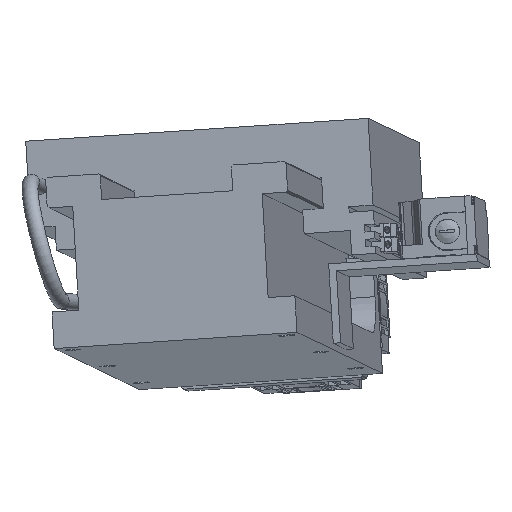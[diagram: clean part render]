
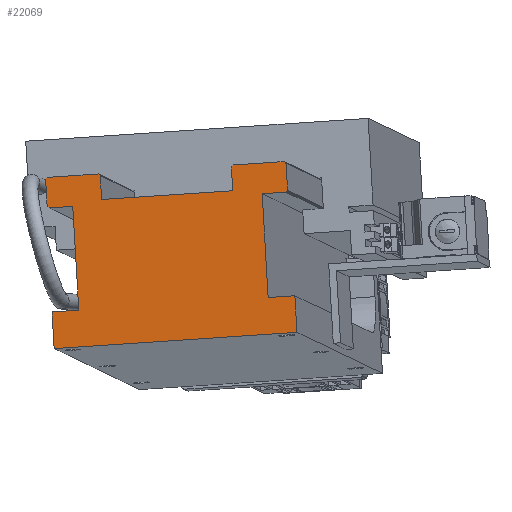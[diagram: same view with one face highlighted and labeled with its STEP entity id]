
A CAD part, front view. The second image highlights one B-rep face of the part: STEP entity #22069.
In plain terms, the highlighted planar face has unit normal (-0.13, -0.99, 0.062).
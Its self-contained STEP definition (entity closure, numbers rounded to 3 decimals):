
#2373=CARTESIAN_POINT('',(111.406,-271.691,222.788));
#2374=VERTEX_POINT('',#2373);
#2381=CARTESIAN_POINT('',(113.131,-273.801,192.912));
#2382=VERTEX_POINT('',#2381);
#2383=CARTESIAN_POINT('',(111.406,-271.691,222.788));
#2384=DIRECTION('',(0.058,-0.07,-0.996));
#2385=VECTOR('',#2384,30.);
#2386=LINE('',#2383,#2385);
#2387=EDGE_CURVE('',#2374,#2382,#2386,.T.);
#20970=CARTESIAN_POINT('',(-69.673,-243.294,295.678));
#20971=VERTEX_POINT('',#20970);
#20978=CARTESIAN_POINT('',(-88.975,-240.838,294.39));
#20979=VERTEX_POINT('',#20978);
#20980=CARTESIAN_POINT('',(-69.673,-243.294,295.678));
#20981=DIRECTION('',(-0.99,0.126,-0.066));
#20982=VECTOR('',#20981,19.5);
#20983=LINE('',#20980,#20982);
#20984=EDGE_CURVE('',#20971,#20979,#20983,.T.);
#21002=CARTESIAN_POINT('',(104.043,-265.4,307.271));
#21003=VERTEX_POINT('',#21002);
#21010=CARTESIAN_POINT('',(84.741,-262.943,305.983));
#21011=VERTEX_POINT('',#21010);
#21012=CARTESIAN_POINT('',(104.043,-265.4,307.271));
#21013=DIRECTION('',(-0.99,0.126,-0.066));
#21014=VECTOR('',#21013,19.5);
#21015=LINE('',#21012,#21014);
#21016=EDGE_CURVE('',#21003,#21011,#21015,.T.);
#21044=CARTESIAN_POINT('',(-47.269,-244.665,320.666));
#21045=VERTEX_POINT('',#21044);
#21052=CARTESIAN_POINT('',(-46.147,-246.036,301.247));
#21053=VERTEX_POINT('',#21052);
#21054=CARTESIAN_POINT('',(-47.269,-244.665,320.666));
#21055=DIRECTION('',(0.058,-0.07,-0.996));
#21056=VECTOR('',#21055,19.5);
#21057=LINE('',#21054,#21056);
#21058=EDGE_CURVE('',#21045,#21053,#21057,.T.);
#21075=CARTESIAN_POINT('',(105.441,-265.483,308.864));
#21076=VERTEX_POINT('',#21075);
#21077=CARTESIAN_POINT('',(105.441,-265.483,308.864));
#21078=DIRECTION('',(-0.659,0.039,-0.751));
#21079=VECTOR('',#21078,2.121);
#21080=LINE('',#21077,#21079);
#21081=EDGE_CURVE('',#21076,#21003,#21080,.T.);
#21102=CARTESIAN_POINT('',(104.176,-263.936,330.773));
#21103=VERTEX_POINT('',#21102);
#21110=CARTESIAN_POINT('',(104.176,-263.936,330.773));
#21111=DIRECTION('',(0.058,-0.07,-0.996));
#21112=VECTOR('',#21111,22.);
#21113=LINE('',#21110,#21112);
#21114=EDGE_CURVE('',#21103,#21076,#21113,.T.);
#21164=CARTESIAN_POINT('',(102.605,-263.642,332.168));
#21165=VERTEX_POINT('',#21164);
#21166=CARTESIAN_POINT('',(102.605,-263.642,332.168));
#21167=DIRECTION('',(0.741,-0.139,-0.657));
#21168=VECTOR('',#21167,2.121);
#21169=LINE('',#21166,#21168);
#21170=EDGE_CURVE('',#21165,#21103,#21169,.T.);
#21190=CARTESIAN_POINT('',(61.032,-258.351,329.393));
#21191=VERTEX_POINT('',#21190);
#21198=CARTESIAN_POINT('',(61.032,-258.351,329.393));
#21199=DIRECTION('',(0.99,-0.126,0.066));
#21200=VECTOR('',#21199,42.0);
#21201=LINE('',#21198,#21200);
#21202=EDGE_CURVE('',#21191,#21165,#21201,.T.);
#21213=CARTESIAN_POINT('',(59.633,-258.268,327.8));
#21214=VERTEX_POINT('',#21213);
#21215=CARTESIAN_POINT('',(59.633,-258.268,327.8));
#21216=DIRECTION('',(0.659,-0.039,0.751));
#21217=VECTOR('',#21216,2.121);
#21218=LINE('',#21215,#21217);
#21219=EDGE_CURVE('',#21214,#21191,#21218,.T.);
#21240=CARTESIAN_POINT('',(60.755,-259.639,308.381));
#21241=VERTEX_POINT('',#21240);
#21248=CARTESIAN_POINT('',(60.755,-259.639,308.381));
#21249=DIRECTION('',(-0.058,0.07,0.996));
#21250=VECTOR('',#21249,19.5);
#21251=LINE('',#21248,#21250);
#21252=EDGE_CURVE('',#21241,#21214,#21251,.T.);
#21262=CARTESIAN_POINT('',(-48.84,-244.37,322.061));
#21263=VERTEX_POINT('',#21262);
#21264=CARTESIAN_POINT('',(-48.84,-244.37,322.061));
#21265=DIRECTION('',(0.741,-0.139,-0.657));
#21266=VECTOR('',#21265,2.121);
#21267=LINE('',#21264,#21266);
#21268=EDGE_CURVE('',#21263,#21045,#21267,.T.);
#21291=CARTESIAN_POINT('',(-90.413,-239.08,319.286));
#21292=VERTEX_POINT('',#21291);
#21299=CARTESIAN_POINT('',(-90.413,-239.08,319.286));
#21300=DIRECTION('',(0.99,-0.126,0.066));
#21301=VECTOR('',#21300,42.);
#21302=LINE('',#21299,#21301);
#21303=EDGE_CURVE('',#21292,#21263,#21302,.T.);
#21314=CARTESIAN_POINT('',(-91.811,-238.996,317.693));
#21315=VERTEX_POINT('',#21314);
#21316=CARTESIAN_POINT('',(-91.811,-238.996,317.693));
#21317=DIRECTION('',(0.659,-0.039,0.751));
#21318=VECTOR('',#21317,2.121);
#21319=LINE('',#21316,#21318);
#21320=EDGE_CURVE('',#21315,#21292,#21319,.T.);
#21341=CARTESIAN_POINT('',(-90.546,-240.543,295.784));
#21342=VERTEX_POINT('',#21341);
#21349=CARTESIAN_POINT('',(-90.546,-240.543,295.784));
#21350=DIRECTION('',(-0.058,0.07,0.996));
#21351=VECTOR('',#21350,22.);
#21352=LINE('',#21349,#21351);
#21353=EDGE_CURVE('',#21342,#21315,#21352,.T.);
#21363=CARTESIAN_POINT('',(-88.975,-240.838,294.39));
#21364=DIRECTION('',(-0.741,0.139,0.657));
#21365=VECTOR('',#21364,2.121);
#21366=LINE('',#21363,#21365);
#21367=EDGE_CURVE('',#20979,#21342,#21366,.T.);
#21718=CARTESIAN_POINT('',(-64.785,-249.271,211.029));
#21719=VERTEX_POINT('',#21718);
#21726=CARTESIAN_POINT('',(-64.785,-249.271,211.029));
#21727=DIRECTION('',(-0.058,0.07,0.996));
#21728=VECTOR('',#21727,85.);
#21729=LINE('',#21726,#21728);
#21730=EDGE_CURVE('',#21719,#20971,#21729,.T.);
#21763=CARTESIAN_POINT('',(-86.561,-246.5,209.576));
#21764=VERTEX_POINT('',#21763);
#21771=CARTESIAN_POINT('',(-64.785,-249.271,211.029));
#21772=DIRECTION('',(-0.99,0.126,-0.066));
#21773=VECTOR('',#21772,22.);
#21774=LINE('',#21771,#21773);
#21775=EDGE_CURVE('',#21719,#21764,#21774,.T.);
#21876=CARTESIAN_POINT('',(89.629,-268.92,221.334));
#21877=VERTEX_POINT('',#21876);
#21884=CARTESIAN_POINT('',(111.406,-271.691,222.788));
#21885=DIRECTION('',(-0.99,0.126,-0.066));
#21886=VECTOR('',#21885,22.);
#21887=LINE('',#21884,#21886);
#21888=EDGE_CURVE('',#2374,#21877,#21887,.T.);
#21920=CARTESIAN_POINT('',(-84.836,-248.609,179.7));
#21921=VERTEX_POINT('',#21920);
#21928=CARTESIAN_POINT('',(-84.836,-248.609,179.7));
#21929=DIRECTION('',(-0.058,0.07,0.996));
#21930=VECTOR('',#21929,30.);
#21931=LINE('',#21928,#21930);
#21932=EDGE_CURVE('',#21921,#21764,#21931,.T.);
#21955=CARTESIAN_POINT('',(-46.147,-246.036,301.247));
#21956=DIRECTION('',(0.99,-0.126,0.066));
#21957=VECTOR('',#21956,108.);
#21958=LINE('',#21955,#21957);
#21959=EDGE_CURVE('',#21053,#21241,#21958,.T.);
#21982=CARTESIAN_POINT('',(89.629,-268.92,221.334));
#21983=DIRECTION('',(-0.058,0.07,0.996));
#21984=VECTOR('',#21983,85.);
#21985=LINE('',#21982,#21984);
#21986=EDGE_CURVE('',#21877,#21011,#21985,.T.);
#22010=CARTESIAN_POINT('',(113.131,-273.801,192.912));
#22011=DIRECTION('',(-0.99,0.126,-0.066));
#22012=VECTOR('',#22011,200.0);
#22013=LINE('',#22010,#22012);
#22014=EDGE_CURVE('',#2382,#21921,#22013,.T.);
#22040=CARTESIAN_POINT('',(9.905,-256.018,259.769));
#22041=DIRECTION('',(-0.13,-0.99,0.062));
#22042=DIRECTION('',(0.99,-0.126,0.066));
#22043=AXIS2_PLACEMENT_3D('',#22040,#22041,#22042);
#22044=PLANE('',#22043);
#22045=ORIENTED_EDGE('',*,*,#21081,.F.);
#22046=ORIENTED_EDGE('',*,*,#21114,.F.);
#22047=ORIENTED_EDGE('',*,*,#21170,.F.);
#22048=ORIENTED_EDGE('',*,*,#21202,.F.);
#22049=ORIENTED_EDGE('',*,*,#21219,.F.);
#22050=ORIENTED_EDGE('',*,*,#21252,.F.);
#22051=ORIENTED_EDGE('',*,*,#21959,.F.);
#22052=ORIENTED_EDGE('',*,*,#21058,.F.);
#22053=ORIENTED_EDGE('',*,*,#21268,.F.);
#22054=ORIENTED_EDGE('',*,*,#21303,.F.);
#22055=ORIENTED_EDGE('',*,*,#21320,.F.);
#22056=ORIENTED_EDGE('',*,*,#21353,.F.);
#22057=ORIENTED_EDGE('',*,*,#21367,.F.);
#22058=ORIENTED_EDGE('',*,*,#20984,.F.);
#22059=ORIENTED_EDGE('',*,*,#21730,.F.);
#22060=ORIENTED_EDGE('',*,*,#21775,.T.);
#22061=ORIENTED_EDGE('',*,*,#21932,.F.);
#22062=ORIENTED_EDGE('',*,*,#22014,.F.);
#22063=ORIENTED_EDGE('',*,*,#2387,.F.);
#22064=ORIENTED_EDGE('',*,*,#21888,.T.);
#22065=ORIENTED_EDGE('',*,*,#21986,.T.);
#22066=ORIENTED_EDGE('',*,*,#21016,.F.);
#22067=EDGE_LOOP('',(#22045,#22046,#22047,#22048,#22049,#22050,#22051,#22052,#22053,#22054,#22055,#22056,#22057,#22058,#22059,#22060,#22061,#22062,#22063,#22064,#22065,#22066));
#22068=FACE_OUTER_BOUND('',#22067,.T.);
#22069=ADVANCED_FACE('',(#22068),#22044,.T.);
